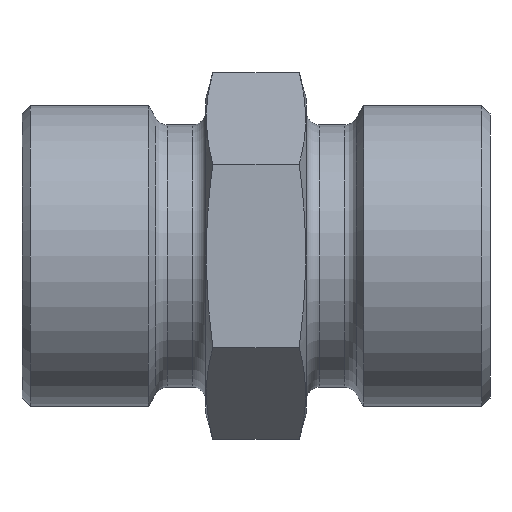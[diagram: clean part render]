
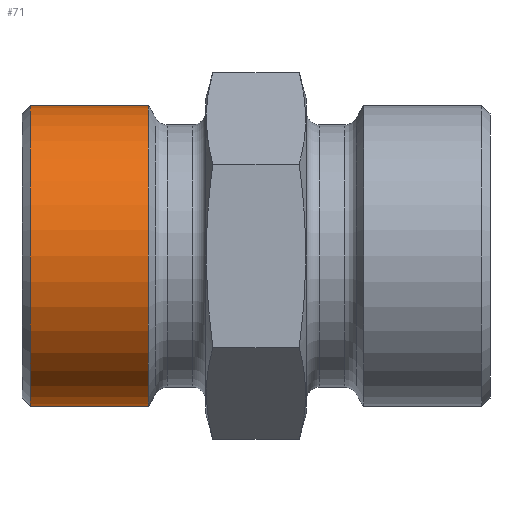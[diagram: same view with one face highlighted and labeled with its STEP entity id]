
A CAD part, front view. The second image highlights one B-rep face of the part: STEP entity #71.
In plain terms, the highlighted cylindrical face has radius 9 mm (diameter 18 mm), a full revolution.
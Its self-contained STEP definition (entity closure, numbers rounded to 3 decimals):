
#71 = ADVANCED_FACE( '', ( #165, #166 ), #167, .T. );
#165 = FACE_OUTER_BOUND( '', #290, .T. );
#166 = FACE_OUTER_BOUND( '', #291, .T. );
#167 = CYLINDRICAL_SURFACE( '', #292, 9. );
#290 = EDGE_LOOP( '', ( #428 ) );
#291 = EDGE_LOOP( '', ( #429 ) );
#292 = AXIS2_PLACEMENT_3D( '', #430, #431, #432 );
#428 = ORIENTED_EDGE( '', *, *, #609, .T. );
#429 = ORIENTED_EDGE( '', *, *, #610, .T. );
#430 = CARTESIAN_POINT( '', ( -60., 0., 0. ) );
#431 = DIRECTION( '', ( 1., 0., 0. ) );
#432 = DIRECTION( '', ( 0., 0., 1. ) );
#609 = EDGE_CURVE( '', #697, #697, #698, .F. );
#610 = EDGE_CURVE( '', #699, #699, #700, .T. );
#697 = VERTEX_POINT( '', #824 );
#698 = CIRCLE( '', #825, 9. );
#699 = VERTEX_POINT( '', #826 );
#700 = CIRCLE( '', #827, 9. );
#824 = CARTESIAN_POINT( '', ( -13.5, 0., 9. ) );
#825 = AXIS2_PLACEMENT_3D( '', #1017, #1018, #1019 );
#826 = CARTESIAN_POINT( '', ( -6.433, 0., 9. ) );
#827 = AXIS2_PLACEMENT_3D( '', #1020, #1021, #1022 );
#1017 = CARTESIAN_POINT( '', ( -13.5, 0., 0. ) );
#1018 = DIRECTION( '', ( -1., 0., 0. ) );
#1019 = DIRECTION( '', ( 0., 0., 1. ) );
#1020 = CARTESIAN_POINT( '', ( -6.433, 0., 0. ) );
#1021 = DIRECTION( '', ( -1., 0., 0. ) );
#1022 = DIRECTION( '', ( 0., 0., 1. ) );
